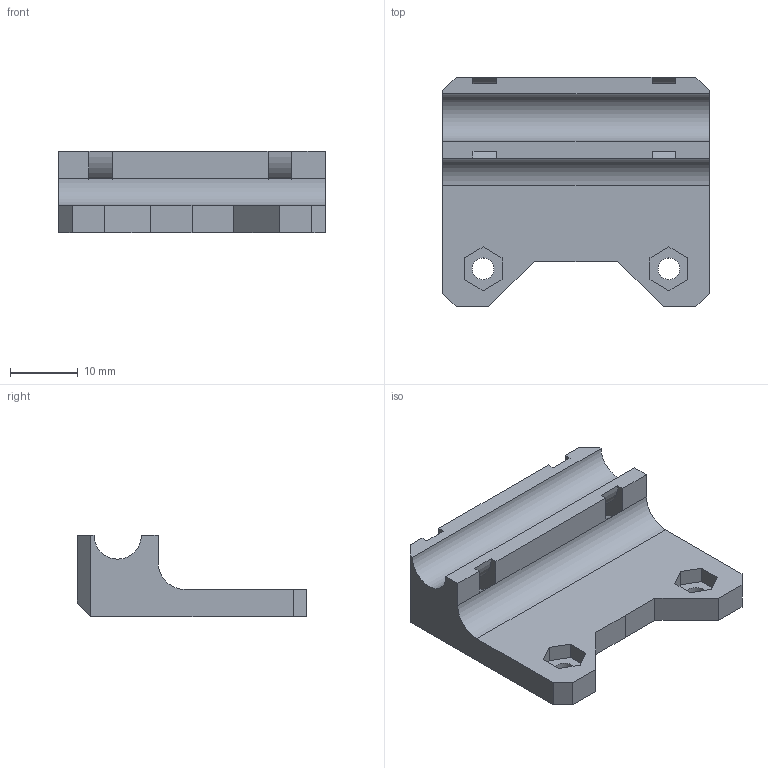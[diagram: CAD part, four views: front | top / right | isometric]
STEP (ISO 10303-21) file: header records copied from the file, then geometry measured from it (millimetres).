
FILE_DESCRIPTION(('CATIA V5 STEP Exchange'),'2;1');
FILE_NAME('D:\_이전 노트북\Cremaker모델링\Cremaker_profile-Metal(5차)-(Final)\Bed-Cable-Holder.stp','2020-10-23T05:17:08+00:00',('none'),('none'),'CATIA Version 5 Release 20 GA (IN-10)','CATIA V5 STEP AP203','none');
FILE_SCHEMA(('CONFIG_CONTROL_DESIGN'));
Length unit declared in the file: millimetre
Products named in the file (1): Bed-Cable-Holder
Bounding box: 39.5 x 34 x 12 mm (x, y, z)
Volume: 7481.8 mm3; surface area: 4194.3 mm2
Topology: 1 solids, 1 shells, 51 faces, 147 edges, 96 vertices
Faces by surface type: plane 37, cylinder 10, cone 4
Entity records: 1667 total; most frequent: CARTESIAN_POINT 309, ORIENTED_EDGE 294, DIRECTION 230, EDGE_CURVE 147, VECTOR 121, LINE 121, VERTEX_POINT 96, AXIS2_PLACEMENT_3D 67
